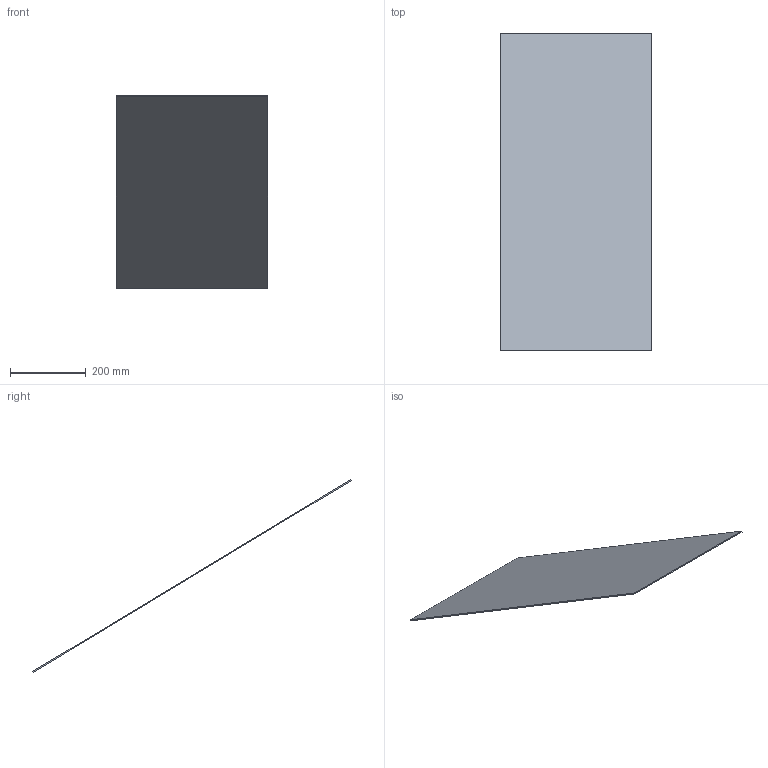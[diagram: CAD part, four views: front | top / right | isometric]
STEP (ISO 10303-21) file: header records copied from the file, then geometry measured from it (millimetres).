
FILE_DESCRIPTION(('Open CASCADE Model'),'2;1');
FILE_NAME('Open CASCADE Shape Model','2026-09-19T12:55:26',('Author'),( 'Open CASCADE'),'Open CASCADE STEP processor 7.9','Open CASCADE 7.9' ,'Unknown');
FILE_SCHEMA(('AUTOMOTIVE_DESIGN { 1 0 10303 214 1 1 1 1 }'));
Length unit declared in the file: millimetre
Products named in the file (1): Open CASCADE STEP translator 7.9 499
Bounding box: 400 x 840.49 x 509.1 mm (x, y, z)
Volume: 1176000 mm3; surface area: 792280 mm2
Topology: 1 solids, 1 shells, 6 faces, 12 edges, 8 vertices
Faces by surface type: plane 6
Entity records: 322 total; most frequent: CARTESIAN_POINT 51, DIRECTION 50, LINE 36, VECTOR 36, ORIENTED_EDGE 24, PCURVE 24, DEFINITIONAL_REPRESENTATION 24, EDGE_CURVE 12
